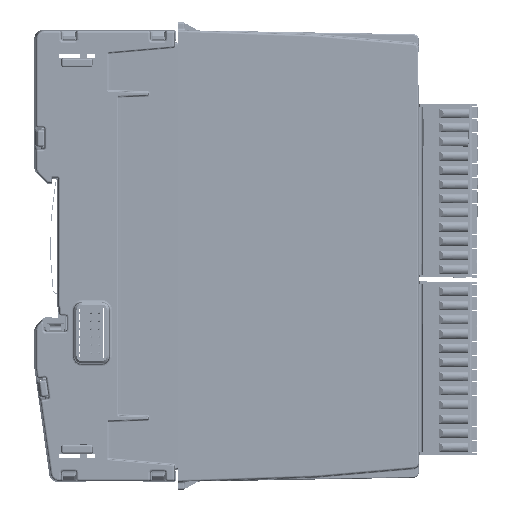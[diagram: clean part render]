
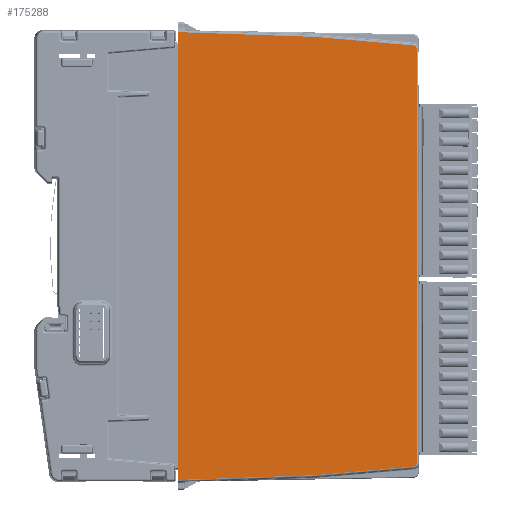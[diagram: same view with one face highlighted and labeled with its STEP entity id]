
A CAD part, left-side view. The second image highlights one B-rep face of the part: STEP entity #175288.
In plain terms, the highlighted planar face has unit normal (-1, -0.018, 0).
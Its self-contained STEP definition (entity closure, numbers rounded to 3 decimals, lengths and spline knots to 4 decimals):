
#5757=ELLIPSE('',#188257,0.0315,0.0315);
#5758=ELLIPSE('',#188258,0.0315,0.0315);
#9528=PLANE('',#188256);
#17397=FACE_OUTER_BOUND('',#27138,.T.);
#27138=EDGE_LOOP('',(#141553,#141554,#141555,#141556,#141557,#141558,#141559,
#141560,#141561,#141562));
#47911=LINE('',#290197,#65134);
#47912=LINE('',#290199,#65135);
#47913=LINE('',#290201,#65136);
#47914=LINE('',#290203,#65137);
#47915=LINE('',#290205,#65138);
#47916=LINE('',#290209,#65139);
#47917=LINE('',#290213,#65140);
#47918=LINE('',#290214,#65141);
#65134=VECTOR('',#222620,39.3701);
#65135=VECTOR('',#222621,39.3701);
#65136=VECTOR('',#222622,39.3701);
#65137=VECTOR('',#222623,39.3701);
#65138=VECTOR('',#222624,39.3701);
#65139=VECTOR('',#222627,39.3701);
#65140=VECTOR('',#222630,39.3701);
#65141=VECTOR('',#222631,39.3701);
#81397=VERTEX_POINT('',#290195);
#81398=VERTEX_POINT('',#290196);
#81399=VERTEX_POINT('',#290198);
#81400=VERTEX_POINT('',#290200);
#81401=VERTEX_POINT('',#290202);
#81402=VERTEX_POINT('',#290204);
#81403=VERTEX_POINT('',#290206);
#81404=VERTEX_POINT('',#290208);
#81405=VERTEX_POINT('',#290210);
#81406=VERTEX_POINT('',#290212);
#102452=EDGE_CURVE('',#81397,#81398,#47911,.T.);
#102453=EDGE_CURVE('',#81399,#81398,#47912,.T.);
#102454=EDGE_CURVE('',#81399,#81400,#47913,.T.);
#102455=EDGE_CURVE('',#81400,#81401,#47914,.T.);
#102456=EDGE_CURVE('',#81401,#81402,#47915,.T.);
#102457=EDGE_CURVE('',#81402,#81403,#5757,.T.);
#102458=EDGE_CURVE('',#81403,#81404,#47916,.T.);
#102459=EDGE_CURVE('',#81404,#81405,#5758,.T.);
#102460=EDGE_CURVE('',#81405,#81406,#47917,.T.);
#102461=EDGE_CURVE('',#81406,#81397,#47918,.T.);
#141553=ORIENTED_EDGE('',*,*,#102452,.T.);
#141554=ORIENTED_EDGE('',*,*,#102453,.F.);
#141555=ORIENTED_EDGE('',*,*,#102454,.T.);
#141556=ORIENTED_EDGE('',*,*,#102455,.T.);
#141557=ORIENTED_EDGE('',*,*,#102456,.T.);
#141558=ORIENTED_EDGE('',*,*,#102457,.T.);
#141559=ORIENTED_EDGE('',*,*,#102458,.T.);
#141560=ORIENTED_EDGE('',*,*,#102459,.T.);
#141561=ORIENTED_EDGE('',*,*,#102460,.T.);
#141562=ORIENTED_EDGE('',*,*,#102461,.T.);
#175288=ADVANCED_FACE('',(#17397),#9528,.T.);
#188256=AXIS2_PLACEMENT_3D('',#290194,#222618,#222619);
#188257=AXIS2_PLACEMENT_3D('',#290207,#222625,#222626);
#188258=AXIS2_PLACEMENT_3D('',#290211,#222628,#222629);
#222618=DIRECTION('center_axis',(-1.,-0.017,
0.));
#222619=DIRECTION('ref_axis',(-0.017,1.,0.));
#222620=DIRECTION('',(0.,0.,-1.));
#222621=DIRECTION('',(0.,0.,1.));
#222622=DIRECTION('',(0.,0.,-1.));
#222623=DIRECTION('',(0.017,-0.999,0.035));
#222624=DIRECTION('',(0.017,-0.996,0.087));
#222625=DIRECTION('center_axis',(-1.,-0.017,
0.));
#222626=DIRECTION('ref_axis',(0.017,-1.,0.));
#222627=DIRECTION('',(0.,0.,1.));
#222628=DIRECTION('center_axis',(-1.,-0.017,
0.));
#222629=DIRECTION('ref_axis',(0.017,-1.,0.));
#222630=DIRECTION('',(-0.017,0.996,0.087));
#222631=DIRECTION('',(-0.017,0.999,0.035));
#290194=CARTESIAN_POINT('Origin',(-0.0296,-0.489,
-2.0669));
#290195=CARTESIAN_POINT('',(-0.0227,-0.8827,0.1083));
#290196=CARTESIAN_POINT('',(-0.0227,-0.8827,-0.0312));
#290197=CARTESIAN_POINT('',(-0.0227,-0.8827,0.128));
#290198=CARTESIAN_POINT('',(-0.0227,-0.8827,-4.1027));
#290199=CARTESIAN_POINT('',(-0.0227,-0.8827,-7.5932));
#290200=CARTESIAN_POINT('',(-0.0227,-0.8827,-4.2421));
#290201=CARTESIAN_POINT('',(-0.0227,-0.8827,0.128));
#290202=CARTESIAN_POINT('',(0.0007,-2.2205,-4.1954));
#290203=CARTESIAN_POINT('',(-0.0282,-0.5654,-4.2532));
#290204=CARTESIAN_POINT('',(0.0174,-3.1772,-4.1117));
#290205=CARTESIAN_POINT('',(-0.0261,-0.6869,-4.3296));
#290206=CARTESIAN_POINT('',(0.0179,-3.2059,-4.0803));
#290207=CARTESIAN_POINT('Origin',(0.0173,-3.1744,
-4.0803));
#290208=CARTESIAN_POINT('',(0.0179,-3.2059,-0.0535));
#290209=CARTESIAN_POINT('',(0.0179,-3.2059,-0.0535));
#290210=CARTESIAN_POINT('',(0.0174,-3.1772,-0.0221));
#290211=CARTESIAN_POINT('Origin',(0.0173,-3.1744,
-0.0535));
#290212=CARTESIAN_POINT('',(0.0007,-2.2205,0.0616));
#290213=CARTESIAN_POINT('',(-0.0261,-0.6869,0.1957));
#290214=CARTESIAN_POINT('',(-0.0282,-0.5654,0.1194));
